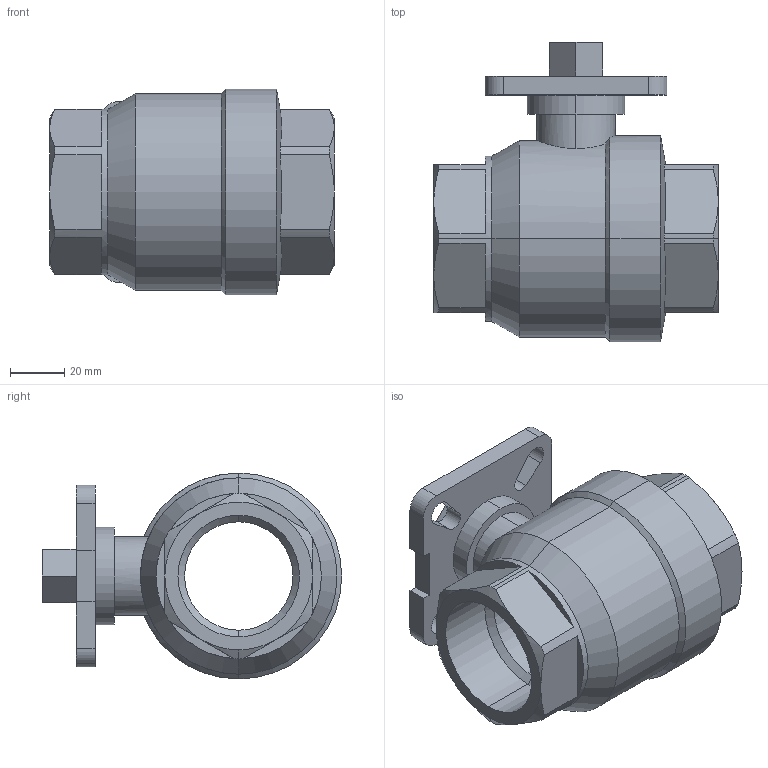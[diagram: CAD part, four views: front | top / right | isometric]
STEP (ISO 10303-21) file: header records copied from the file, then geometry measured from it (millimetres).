
FILE_DESCRIPTION (( 'STEP AP203' ), '1' );
FILE_NAME ('B3.622I0400FVPB0.STEP', '2018-09-28T14:35:45', ( '' ), ( '' ), 'SwSTEP 2.0', 'SolidWorks 2014', '' );
FILE_SCHEMA (( 'CONFIG_CONTROL_DESIGN' ));
Length unit declared in the file: millimetre
Products named in the file (1): B3.622I0400FVPB0
Bounding box: 105 x 110.5 x 76 mm (x, y, z)
Volume: 267512.7 mm3; surface area: 52478.6 mm2
Topology: 1 solids, 1 shells, 112 faces, 288 edges, 181 vertices
Faces by surface type: plane 48, cylinder 39, cone 25
Entity records: 3746 total; most frequent: CARTESIAN_POINT 910, DIRECTION 583, ORIENTED_EDGE 576, EDGE_CURVE 288, AXIS2_PLACEMENT_3D 218, VERTEX_POINT 181, VECTOR 147, LINE 147
